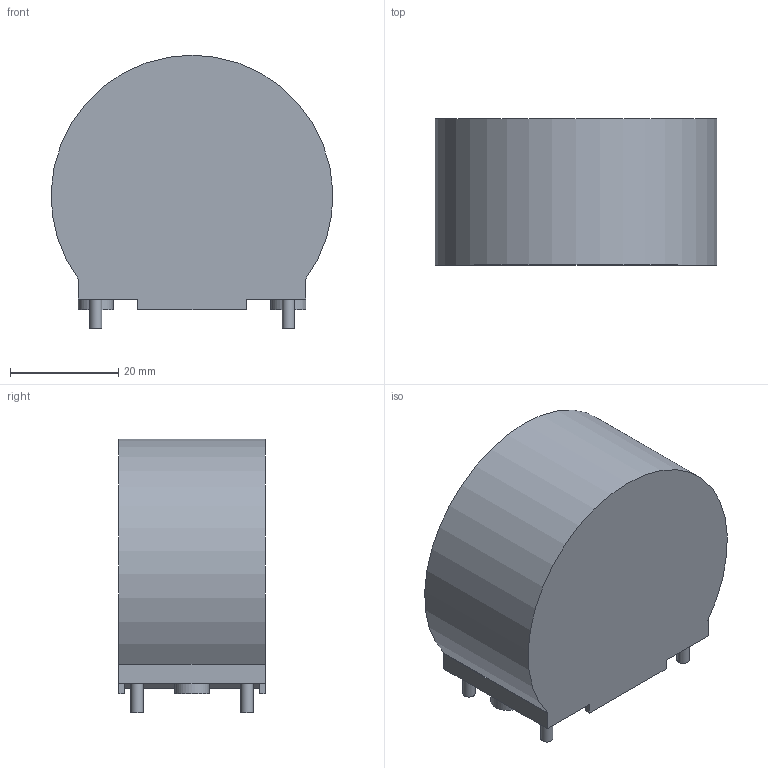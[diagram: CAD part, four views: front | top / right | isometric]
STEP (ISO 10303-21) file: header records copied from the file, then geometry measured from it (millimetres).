
FILE_DESCRIPTION(/* description */ (''),/* implementation_level */ '2;1');
FILE_NAME(/* name */ 'F:\Done\2016\多产品3D模拟\\X2\4FEE653994885F84\X0\\6128-X230\6128-X230 3D Model.stp',/* time_stamp */ '2016-07-11T09:30:50+08:00',/* author */ ('CN000562'),/* organization */ (''),/* preprocessor_version */ 'ST-DEVELOPER v16.5',/* originating_system */ 'Autodesk Inventor 2017',/* authorisation */ '');
FILE_SCHEMA (('AUTOMOTIVE_DESIGN { 1 0 10303 214 3 1 1 }'));
Length unit declared in the file: millimetre
Products named in the file (1): 6126-X216 3D Model
Bounding box: 51.96 x 27 x 50.5 mm (x, y, z)
Volume: 53668.8 mm3; surface area: 8802.7 mm2
Topology: 1 solids, 1 shells, 42 faces, 99 edges, 65 vertices
Faces by surface type: plane 35, cylinder 7
Full cylindrical faces by diameter (mm): 2.24 x4, 6.44 x2
Entity records: 1184 total; most frequent: CARTESIAN_POINT 199, DIRECTION 192, ORIENTED_EDGE 184, EDGE_CURVE 92, LINE 78, VECTOR 78, VERTEX_POINT 64, AXIS2_PLACEMENT_3D 57
